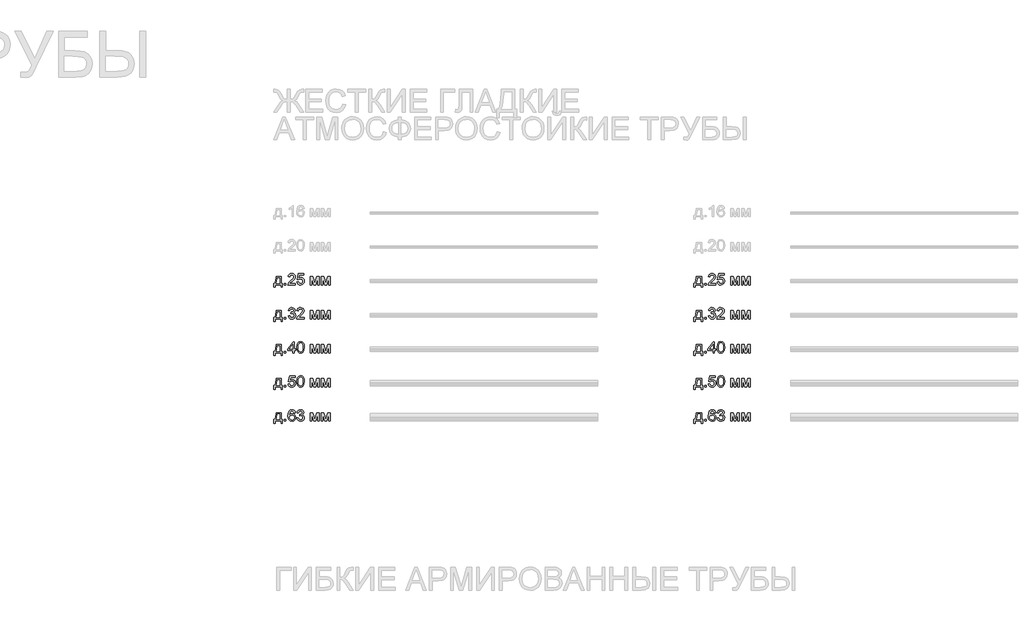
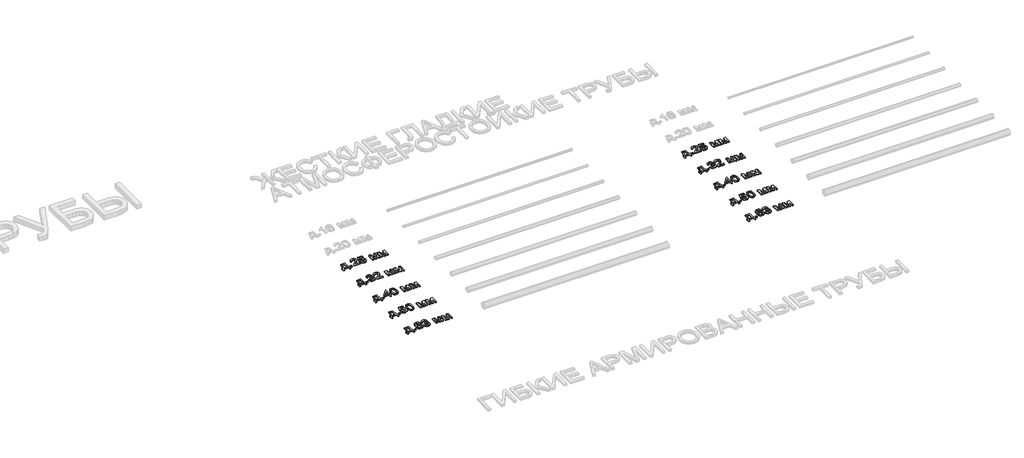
# One storey, part 84 of 98: 10 proxies.
"""IFC4 building model written with IfcOpenShell, lengths in millimetres."""

from ifc_helpers import new_model, si_unit, origin, origin_with_axes, place, context, project, spatial, polyline, outline, extrude, element, save

model = new_model("IFC4")

# Units and contexts
model_context = context("Model", 3, world=origin())
ifc_project = project(units=[si_unit("LENGTHUNIT", "METRE", prefix="MILLI")], contexts=[model_context])

# Site, building, storey
site = spatial("IfcSite", under=ifc_project)
building = spatial("IfcBuilding", under=site)
storey = spatial("IfcBuildingStorey", under=building, Name="Этаж 01", Elevation=0.0)

# Proxies
placement = place(None, origin())
element("IfcBuildingElementProxy", 1, Name="100", ObjectType="100", at=placement, inside=storey, context=model_context, shape_type="SweptSolid", body=[
    extrude(outline(polyline([(-29.8143916, -8196.7269726), (17.2745038, -8196.7269726), (17.2745038, -8257.9425366), (26.6922829, -8257.9425366), (26.6922829, -8290.9047634), (14.1352441, -8290.9047634), (14.1352441, -8270.4995754), (-37.6625408, -8270.4995754), (-37.6625408, -8290.9047634), (-50.2195796, -8290.9047634), (-50.2195796, -8257.9425366), (-42.3714303, -8257.9425366), (-32.6716084, -8233.9934187), (-29.8143916, -8196.7269726)]), holes=[polyline([(-18.8269827, -8209.2840114), (-21.7700386, -8237.8929679), (-28.2447617, -8257.9425366), (4.717465, -8257.9425366), (4.717465, -8209.2840114), (-18.8269827, -8209.2840114)])]), origin_with_axes(), (0.0, 0.0, 1.0), 10.0),
    extrude(outline(polyline([(43.9582112, -8270.4995754), (43.9582112, -8257.9425366), (56.51525, -8257.9425366), (56.51525, -8270.4995754), (43.9582112, -8270.4995754)])), origin_with_axes(), (0.0, 0.0, 1.0), 10.0),
    extrude(outline(polyline([(141.2752616, -8257.9425366), (141.2752616, -8270.4995754), (75.3508081, -8270.4995754), (76.6997088, -8261.8420858), (84.3271288, -8248.5124948), (100.0479527, -8233.9566305), (121.728465, -8213.0364077), (127.148593, -8198.8116373), (122.0350333, -8187.2969308), (108.6809169, -8182.600304), (94.7627147, -8187.1865662), (89.4774767, -8199.8662323), (76.920438, -8198.2966025), (79.9646615, -8186.1503653), (86.5466835, -8177.2782778), (96.3231475, -8171.8520184), (108.950697, -8170.0432652), (121.670217, -8172.0543535), (131.4282869, -8178.0876182), (137.6362956, -8187.1007271), (139.7056318, -8198.0513478), (137.4738144, -8209.9584617), (130.0548608, -8222.2702458), (112.0654312, -8239.4748605), (97.6199315, -8251.5536526), (91.9545488, -8257.9425366), (141.2752616, -8257.9425366)])), origin_with_axes(), (0.0, 0.0, 1.0), 10.0),
    extrude(outline(polyline([(153.8323004, -8243.815868), (166.3893392, -8242.2462382), (172.7169095, -8255.1834216), (185.838034, -8259.5121665), (194.8388801, -8258.006916), (201.5833834, -8253.4911645), (205.7956322, -8246.4860781), (207.1997152, -8237.5128231), (201.9390026, -8222.6013396), (195.3324552, -8218.4994554), (186.0342377, -8217.1321606), (175.0100406, -8219.3149271), (167.958969, -8224.9803098), (155.4019303, -8223.41068), (166.3893392, -8171.6128951), (215.0478644, -8171.6128951), (215.0478644, -8184.1699338), (176.5428822, -8184.1699338), (171.1718051, -8211.8346599), (180.1419944, -8206.3900064), (189.5413794, -8204.5751218), (201.2737494, -8206.8253334), (211.0134252, -8213.575968), (217.5709218, -8223.8644011), (219.7567539, -8236.7280082), (217.7885853, -8249.285047), (211.8840793, -8260.0272013), (200.5778393, -8269.0587042), (185.7889831, -8272.0692052), (173.4557392, -8270.1347591), (163.6302242, -8264.3314206), (156.894918, -8255.3336401), (153.8323004, -8243.815868)])), origin_with_axes(), (0.0, 0.0, 1.0), 10.0),
    extrude(outline(polyline([(273.1241687, -8196.7269726), (294.7311046, -8196.7269726), (311.3838962, -8255.7842956), (329.3365376, -8196.7269726), (350.0360312, -8196.7269726), (350.0360312, -8270.4995754), (337.4789924, -8270.4995754), (337.4789924, -8211.0988959), (319.4282492, -8270.4995754), (302.9471358, -8270.4995754), (285.6812075, -8208.2539418), (285.6812075, -8270.4995754), (273.1241687, -8270.4995754), (273.1241687, -8196.7269726)])), origin_with_axes(), (0.0, 0.0, 1.0), 10.0),
    extrude(outline(polyline([(368.8715893, -8196.7269726), (390.4785252, -8196.7269726), (407.1313168, -8255.7842956), (425.0839582, -8196.7269726), (445.7834518, -8196.7269726), (445.7834518, -8270.4995754), (433.226413, -8270.4995754), (433.226413, -8211.0988959), (415.1756698, -8270.4995754), (398.6945564, -8270.4995754), (381.4286281, -8208.2539418), (381.4286281, -8270.4995754), (368.8715893, -8270.4995754), (368.8715893, -8196.7269726)])), origin_with_axes(), (0.0, 0.0, 1.0), 10.0),
])
element("IfcBuildingElementProxy", 2, Name="100", ObjectType="100", at=placement, inside=storey, context=model_context, shape_type="SweptSolid", body=[
    extrude(outline(polyline([(-29.8143916, -8496.7269726), (17.2745038, -8496.7269726), (17.2745038, -8557.9425366), (26.6922829, -8557.9425366), (26.6922829, -8590.9047634), (14.1352441, -8590.9047634), (14.1352441, -8570.4995754), (-37.6625408, -8570.4995754), (-37.6625408, -8590.9047634), (-50.2195796, -8590.9047634), (-50.2195796, -8557.9425366), (-42.3714303, -8557.9425366), (-32.6716084, -8533.9934187), (-29.8143916, -8496.7269726)]), holes=[polyline([(-18.8269827, -8509.2840114), (-21.7700386, -8537.8929679), (-28.2447617, -8557.9425366), (4.717465, -8557.9425366), (4.717465, -8509.2840114), (-18.8269827, -8509.2840114)])]), origin_with_axes(), (0.0, 0.0, 1.0), 10.0),
    extrude(outline(polyline([(43.9582112, -8570.4995754), (43.9582112, -8557.9425366), (56.51525, -8557.9425366), (56.51525, -8570.4995754), (43.9582112, -8570.4995754)])), origin_with_axes(), (0.0, 0.0, 1.0), 10.0),
    extrude(outline(polyline([(76.920438, -8543.815868), (89.4774767, -8542.2462382), (96.405921, -8555.4654645), (109.3676299, -8559.5121665), (117.9760686, -8558.1203462), (124.62247, -8553.9448856), (130.2878527, -8540.1615735), (124.6715209, -8527.1753391), (110.3976995, -8522.0372539), (101.5930571, -8523.41068), (102.9910087, -8510.8536412), (105.0020969, -8511.000794), (119.2513929, -8507.3955505), (123.9970706, -8502.821551), (125.5789632, -8496.3100397), (120.992701, -8486.4875904), (109.1714262, -8482.600304), (97.2029986, -8486.5243786), (91.0471066, -8498.2966025), (78.4900678, -8496.7269726), (82.1872819, -8485.4513895), (88.7662382, -8477.0330231), (97.7670843, -8471.7907047), (108.7299678, -8470.0432652), (123.8744433, -8473.4890933), (134.4694447, -8482.9068723), (138.136002, -8495.5742757), (134.6533857, -8507.1502958), (124.3526899, -8515.4644289), (138.0379001, -8524.0483421), (142.8448915, -8540.3823027), (140.4413958, -8552.6205104), (133.2309087, -8562.8476299), (122.347733, -8569.7638114), (108.9261715, -8572.0692052), (96.7860657, -8570.1010366), (86.9023028, -8564.1965305), (80.0290408, -8555.1650275), (76.920438, -8543.815868)])), origin_with_axes(), (0.0, 0.0, 1.0), 10.0),
    extrude(outline(polyline([(218.1871241, -8557.9425366), (218.1871241, -8570.4995754), (152.2626706, -8570.4995754), (153.6115712, -8561.8420858), (161.2389912, -8548.5124948), (176.9598152, -8533.9566305), (198.6403274, -8513.0364077), (204.0604555, -8498.8116373), (198.9468958, -8487.2969308), (185.5927793, -8482.600304), (171.6745772, -8487.1865662), (166.3893392, -8499.8662323), (153.8323004, -8498.2966025), (156.8765239, -8486.1503653), (163.458546, -8477.2782778), (173.23501, -8471.8520184), (185.8625595, -8470.0432652), (198.5820794, -8472.0543535), (208.3401494, -8478.0876182), (214.548158, -8487.1007271), (216.6174943, -8498.0513478), (214.3856768, -8509.9584617), (206.9667232, -8522.2702458), (188.9772937, -8539.4748605), (174.531794, -8551.5536526), (168.8664113, -8557.9425366), (218.1871241, -8557.9425366)])), origin_with_axes(), (0.0, 0.0, 1.0), 10.0),
    extrude(outline(polyline([(273.1241687, -8496.7269726), (294.7311046, -8496.7269726), (311.3838962, -8555.7842956), (329.3365376, -8496.7269726), (350.0360312, -8496.7269726), (350.0360312, -8570.4995754), (337.4789924, -8570.4995754), (337.4789924, -8511.0988959), (319.4282492, -8570.4995754), (302.9471358, -8570.4995754), (285.6812075, -8508.2539418), (285.6812075, -8570.4995754), (273.1241687, -8570.4995754), (273.1241687, -8496.7269726)])), origin_with_axes(), (0.0, 0.0, 1.0), 10.0),
    extrude(outline(polyline([(368.8715893, -8496.7269726), (390.4785252, -8496.7269726), (407.1313168, -8555.7842956), (425.0839582, -8496.7269726), (445.7834518, -8496.7269726), (445.7834518, -8570.4995754), (433.226413, -8570.4995754), (433.226413, -8511.0988959), (415.1756698, -8570.4995754), (398.6945564, -8570.4995754), (381.4286281, -8508.2539418), (381.4286281, -8570.4995754), (368.8715893, -8570.4995754), (368.8715893, -8496.7269726)])), origin_with_axes(), (0.0, 0.0, 1.0), 10.0),
])
element("IfcBuildingElementProxy", 3, Name="100", ObjectType="100", at=placement, inside=storey, context=model_context, shape_type="SweptSolid", body=[
    extrude(outline(polyline([(-29.8143916, -8796.7269726), (17.2745038, -8796.7269726), (17.2745038, -8857.9425366), (26.6922829, -8857.9425366), (26.6922829, -8890.9047634), (14.1352441, -8890.9047634), (14.1352441, -8870.4995754), (-37.6625408, -8870.4995754), (-37.6625408, -8890.9047634), (-50.2195796, -8890.9047634), (-50.2195796, -8857.9425366), (-42.3714303, -8857.9425366), (-32.6716084, -8833.9934187), (-29.8143916, -8796.7269726)]), holes=[polyline([(-18.8269827, -8809.2840114), (-21.7700386, -8837.8929679), (-28.2447617, -8857.9425366), (4.717465, -8857.9425366), (4.717465, -8809.2840114), (-18.8269827, -8809.2840114)])]), origin_with_axes(), (0.0, 0.0, 1.0), 10.0),
    extrude(outline(polyline([(43.9582112, -8870.4995754), (43.9582112, -8857.9425366), (56.51525, -8857.9425366), (56.51525, -8870.4995754), (43.9582112, -8870.4995754)])), origin_with_axes(), (0.0, 0.0, 1.0), 10.0),
    extrude(outline(polyline([(117.730814, -8870.4995754), (117.730814, -8846.9551277), (72.2115484, -8846.9551277), (72.2115484, -8834.3980889), (120.8700736, -8771.6128951), (130.2878527, -8771.6128951), (130.2878527, -8834.3980889), (142.8448915, -8834.3980889), (142.8448915, -8846.9551277), (130.2878527, -8846.9551277), (130.2878527, -8870.4995754), (117.730814, -8870.4995754)]), holes=[polyline([(117.730814, -8834.3980889), (117.730814, -8795.5988012), (87.6625922, -8834.3980889), (117.730814, -8834.3980889)])]), origin_with_axes(), (0.0, 0.0, 1.0), 10.0),
    extrude(outline(polyline([(153.8323004, -8821.0807607), (157.5233831, -8792.1774986), (168.4862666, -8775.5124442), (186.7945272, -8770.0432652), (201.4607561, -8773.2806268), (211.5897737, -8782.6125667), (217.4758856, -8797.4749993), (219.7567539, -8821.0807607), (216.1024595, -8849.8613955), (205.1763642, -8866.563238), (196.9450046, -8870.6927134), (186.7945272, -8872.0692052), (173.7469791, -8869.6779723), (163.8386907, -8862.5042734), (156.333898, -8845.5142565), (153.8323004, -8821.0807607)]), holes=[polyline([(166.3893392, -8821.0562352), (167.8608672, -8840.8084327), (172.2754511, -8852.2403657), (178.8482761, -8857.6942163), (186.7945272, -8859.5121665), (194.7407783, -8857.6880849), (201.3136033, -8852.2158402), (205.7281872, -8840.7777759), (207.1997152, -8821.0562352), (205.7772381, -8801.7485618), (201.509807, -8790.227724), (194.9492447, -8784.507159), (186.6473744, -8782.600304), (178.7869624, -8784.2802984), (172.4716548, -8789.3202818), (167.9099181, -8801.5584895), (166.3893392, -8821.0562352)])]), origin_with_axes(), (0.0, 0.0, 1.0), 10.0),
    extrude(outline(polyline([(273.1241687, -8796.7269726), (294.7311046, -8796.7269726), (311.3838962, -8855.7842956), (329.3365376, -8796.7269726), (350.0360312, -8796.7269726), (350.0360312, -8870.4995754), (337.4789924, -8870.4995754), (337.4789924, -8811.0988959), (319.4282492, -8870.4995754), (302.9471358, -8870.4995754), (285.6812075, -8808.2539418), (285.6812075, -8870.4995754), (273.1241687, -8870.4995754), (273.1241687, -8796.7269726)])), origin_with_axes(), (0.0, 0.0, 1.0), 10.0),
    extrude(outline(polyline([(368.8715893, -8796.7269726), (390.4785252, -8796.7269726), (407.1313168, -8855.7842956), (425.0839582, -8796.7269726), (445.7834518, -8796.7269726), (445.7834518, -8870.4995754), (433.226413, -8870.4995754), (433.226413, -8811.0988959), (415.1756698, -8870.4995754), (398.6945564, -8870.4995754), (381.4286281, -8808.2539418), (381.4286281, -8870.4995754), (368.8715893, -8870.4995754), (368.8715893, -8796.7269726)])), origin_with_axes(), (0.0, 0.0, 1.0), 10.0),
])
element("IfcBuildingElementProxy", 4, Name="100", ObjectType="100", at=placement, inside=storey, context=model_context, shape_type="SweptSolid", body=[
    extrude(outline(polyline([(-29.8143916, -9096.7269726), (17.2745038, -9096.7269726), (17.2745038, -9157.9425366), (26.6922829, -9157.9425366), (26.6922829, -9190.9047634), (14.1352441, -9190.9047634), (14.1352441, -9170.4995754), (-37.6625408, -9170.4995754), (-37.6625408, -9190.9047634), (-50.2195796, -9190.9047634), (-50.2195796, -9157.9425366), (-42.3714303, -9157.9425366), (-32.6716084, -9133.9934187), (-29.8143916, -9096.7269726)]), holes=[polyline([(-18.8269827, -9109.2840114), (-21.7700386, -9137.8929679), (-28.2447617, -9157.9425366), (4.717465, -9157.9425366), (4.717465, -9109.2840114), (-18.8269827, -9109.2840114)])]), origin_with_axes(), (0.0, 0.0, 1.0), 10.0),
    extrude(outline(polyline([(43.9582112, -9170.4995754), (43.9582112, -9157.9425366), (56.51525, -9157.9425366), (56.51525, -9170.4995754), (43.9582112, -9170.4995754)])), origin_with_axes(), (0.0, 0.0, 1.0), 10.0),
    extrude(outline(polyline([(76.920438, -9143.815868), (89.4774767, -9142.2462382), (95.805047, -9155.1834216), (108.9261715, -9159.5121665), (117.9270177, -9158.006916), (124.6715209, -9153.4911645), (128.8837698, -9146.4860781), (130.2878527, -9137.5128231), (125.0271402, -9122.6013396), (118.4205927, -9118.4994554), (109.1223753, -9117.1321606), (98.0981781, -9119.3149271), (91.0471066, -9124.9803098), (78.4900678, -9123.41068), (89.4774767, -9071.6128951), (138.136002, -9071.6128951), (138.136002, -9084.1699338), (99.6310198, -9084.1699338), (94.2599427, -9111.8346599), (103.230132, -9106.3900064), (112.629517, -9104.5751218), (124.3618869, -9106.8253334), (134.1015627, -9113.575968), (140.6590593, -9123.8644011), (142.8448915, -9136.7280082), (140.8767228, -9149.285047), (134.9722168, -9160.0272013), (123.6659768, -9169.0587042), (108.8771206, -9172.0692052), (96.5438767, -9170.1347591), (86.7183618, -9164.3314206), (79.9830556, -9155.3336401), (76.920438, -9143.815868)])), origin_with_axes(), (0.0, 0.0, 1.0), 10.0),
    extrude(outline(polyline([(153.8323004, -9121.0807607), (157.5233831, -9092.1774986), (168.4862666, -9075.5124442), (186.7945272, -9070.0432652), (201.4607561, -9073.2806268), (211.5897737, -9082.6125667), (217.4758856, -9097.4749993), (219.7567539, -9121.0807607), (216.1024595, -9149.8613955), (205.1763642, -9166.563238), (196.9450046, -9170.6927134), (186.7945272, -9172.0692052), (173.7469791, -9169.6779723), (163.8386907, -9162.5042734), (156.333898, -9145.5142565), (153.8323004, -9121.0807607)]), holes=[polyline([(166.3893392, -9121.0562352), (167.8608672, -9140.8084327), (172.2754511, -9152.2403657), (178.8482761, -9157.6942163), (186.7945272, -9159.5121665), (194.7407783, -9157.6880849), (201.3136033, -9152.2158402), (205.7281872, -9140.7777759), (207.1997152, -9121.0562352), (205.7772381, -9101.7485618), (201.509807, -9090.227724), (194.9492447, -9084.507159), (186.6473744, -9082.600304), (178.7869624, -9084.2802984), (172.4716548, -9089.3202818), (167.9099181, -9101.5584895), (166.3893392, -9121.0562352)])]), origin_with_axes(), (0.0, 0.0, 1.0), 10.0),
    extrude(outline(polyline([(273.1241687, -9096.7269726), (294.7311046, -9096.7269726), (311.3838962, -9155.7842956), (329.3365376, -9096.7269726), (350.0360312, -9096.7269726), (350.0360312, -9170.4995754), (337.4789924, -9170.4995754), (337.4789924, -9111.0988959), (319.4282492, -9170.4995754), (302.9471358, -9170.4995754), (285.6812075, -9108.2539418), (285.6812075, -9170.4995754), (273.1241687, -9170.4995754), (273.1241687, -9096.7269726)])), origin_with_axes(), (0.0, 0.0, 1.0), 10.0),
    extrude(outline(polyline([(368.8715893, -9096.7269726), (390.4785252, -9096.7269726), (407.1313168, -9155.7842956), (425.0839582, -9096.7269726), (445.7834518, -9096.7269726), (445.7834518, -9170.4995754), (433.226413, -9170.4995754), (433.226413, -9111.0988959), (415.1756698, -9170.4995754), (398.6945564, -9170.4995754), (381.4286281, -9108.2539418), (381.4286281, -9170.4995754), (368.8715893, -9170.4995754), (368.8715893, -9096.7269726)])), origin_with_axes(), (0.0, 0.0, 1.0), 10.0),
])
element("IfcBuildingElementProxy", 5, Name="100", ObjectType="100", at=placement, inside=storey, context=model_context, shape_type="SweptSolid", body=[
    extrude(outline(polyline([(-29.8143916, -9396.7269726), (17.2745038, -9396.7269726), (17.2745038, -9457.9425366), (26.6922829, -9457.9425366), (26.6922829, -9490.9047634), (14.1352441, -9490.9047634), (14.1352441, -9470.4995754), (-37.6625408, -9470.4995754), (-37.6625408, -9490.9047634), (-50.2195796, -9490.9047634), (-50.2195796, -9457.9425366), (-42.3714303, -9457.9425366), (-32.6716084, -9433.9934187), (-29.8143916, -9396.7269726)]), holes=[polyline([(-18.8269827, -9409.2840114), (-21.7700386, -9437.8929679), (-28.2447617, -9457.9425366), (4.717465, -9457.9425366), (4.717465, -9409.2840114), (-18.8269827, -9409.2840114)])]), origin_with_axes(), (0.0, 0.0, 1.0), 10.0),
    extrude(outline(polyline([(43.9582112, -9470.4995754), (43.9582112, -9457.9425366), (56.51525, -9457.9425366), (56.51525, -9470.4995754), (43.9582112, -9470.4995754)])), origin_with_axes(), (0.0, 0.0, 1.0), 10.0),
    extrude(outline(polyline([(141.2752616, -9396.7269726), (128.7182229, -9398.2966025), (123.9602824, -9387.8242283), (111.3787182, -9382.600304), (100.0479527, -9385.6414618), (91.4763022, -9397.0580664), (87.9078469, -9419.4375545), (98.9810949, -9409.4189014), (112.7030934, -9406.1447517), (124.3036389, -9408.3827005), (134.0402491, -9415.0965469), (140.6437309, -9425.3543232), (142.8448915, -9438.2240617), (138.7000877, -9455.5513036), (127.2957458, -9467.8140368), (110.8391579, -9472.0692052), (96.5929276, -9469.2487766), (85.2468338, -9460.7874907), (77.8248145, -9445.8514817), (75.3508081, -9423.6068837), (78.0976603, -9398.5970394), (86.338217, -9381.496658), (97.5892747, -9372.9066134), (112.1635331, -9370.0432652), (123.1815988, -9371.8152302), (132.0046354, -9377.131125), (138.1850529, -9385.5740168), (141.2752616, -9396.7269726)]), holes=[polyline([(87.9078469, -9438.0278579), (90.8141146, -9448.9049023), (98.5396365, -9456.8021024), (109.8581393, -9459.5121665), (118.1446812, -9458.1080835), (124.6592582, -9453.8958347), (128.8807041, -9447.2739588), (130.2878527, -9438.6409946), (128.8990982, -9430.3544527), (124.7328346, -9424.0360794), (118.107893, -9420.0353627), (109.3431045, -9418.7017905), (94.1495781, -9424.0360794), (89.4682797, -9430.2011685), (87.9078469, -9438.0278579)])]), origin_with_axes(), (0.0, 0.0, 1.0), 10.0),
    extrude(outline(polyline([(153.8323004, -9443.815868), (166.3893392, -9442.2462382), (173.3177834, -9455.4654645), (186.2794924, -9459.5121665), (194.8879311, -9458.1203462), (201.5343325, -9453.9448856), (207.1997152, -9440.1615735), (201.5833834, -9427.1753391), (187.309562, -9422.0372539), (178.5049196, -9423.41068), (179.9028711, -9410.8536412), (181.9139594, -9411.000794), (196.1632553, -9407.3955505), (200.9089331, -9402.821551), (202.4908256, -9396.3100397), (197.9045634, -9386.4875904), (186.0832887, -9382.600304), (174.1148611, -9386.5243786), (167.958969, -9398.2966025), (155.4019303, -9396.7269726), (159.0991443, -9385.4513895), (165.6781007, -9377.0330231), (174.6789468, -9371.7907047), (185.6418303, -9370.0432652), (200.7863057, -9373.4890933), (211.3813072, -9382.9068723), (215.0478644, -9395.5742757), (211.5652482, -9407.1502958), (201.2645523, -9415.4644289), (214.9497625, -9424.0483421), (219.7567539, -9440.3823027), (217.3532582, -9452.6205104), (210.1427711, -9462.8476299), (199.2595955, -9469.7638114), (185.838034, -9472.0692052), (173.6979282, -9470.1010366), (163.8141652, -9464.1965305), (156.9409033, -9455.1650275), (153.8323004, -9443.815868)])), origin_with_axes(), (0.0, 0.0, 1.0), 10.0),
    extrude(outline(polyline([(273.1241687, -9396.7269726), (294.7311046, -9396.7269726), (311.3838962, -9455.7842956), (329.3365376, -9396.7269726), (350.0360312, -9396.7269726), (350.0360312, -9470.4995754), (337.4789924, -9470.4995754), (337.4789924, -9411.0988959), (319.4282492, -9470.4995754), (302.9471358, -9470.4995754), (285.6812075, -9408.2539418), (285.6812075, -9470.4995754), (273.1241687, -9470.4995754), (273.1241687, -9396.7269726)])), origin_with_axes(), (0.0, 0.0, 1.0), 10.0),
    extrude(outline(polyline([(368.8715893, -9396.7269726), (390.4785252, -9396.7269726), (407.1313168, -9455.7842956), (425.0839582, -9396.7269726), (445.7834518, -9396.7269726), (445.7834518, -9470.4995754), (433.226413, -9470.4995754), (433.226413, -9411.0988959), (415.1756698, -9470.4995754), (398.6945564, -9470.4995754), (381.4286281, -9408.2539418), (381.4286281, -9470.4995754), (368.8715893, -9470.4995754), (368.8715893, -9396.7269726)])), origin_with_axes(), (0.0, 0.0, 1.0), 10.0),
])
element("IfcBuildingElementProxy", 6, Name="100", ObjectType="100", at=placement, inside=storey, context=model_context, shape_type="SweptSolid", body=[
    extrude(outline(polyline([(3670.1856084, -8196.7269726), (3717.2745038, -8196.7269726), (3717.2745038, -8257.9425366), (3726.6922829, -8257.9425366), (3726.6922829, -8290.9047634), (3714.1352441, -8290.9047634), (3714.1352441, -8270.4995754), (3662.3374592, -8270.4995754), (3662.3374592, -8290.9047634), (3649.7804204, -8290.9047634), (3649.7804204, -8257.9425366), (3657.6285697, -8257.9425366), (3667.3283916, -8233.9934187), (3670.1856084, -8196.7269726)]), holes=[polyline([(3681.1730173, -8209.2840114), (3678.2299614, -8237.8929679), (3671.7552383, -8257.9425366), (3704.717465, -8257.9425366), (3704.717465, -8209.2840114), (3681.1730173, -8209.2840114)])]), origin_with_axes(), (0.0, 0.0, 1.0), 10.0),
    extrude(outline(polyline([(3743.9582112, -8270.4995754), (3743.9582112, -8257.9425366), (3756.51525, -8257.9425366), (3756.51525, -8270.4995754), (3743.9582112, -8270.4995754)])), origin_with_axes(), (0.0, 0.0, 1.0), 10.0),
    extrude(outline(polyline([(3841.2752616, -8257.9425366), (3841.2752616, -8270.4995754), (3775.3508081, -8270.4995754), (3776.6997088, -8261.8420858), (3784.3271288, -8248.5124948), (3800.0479527, -8233.9566305), (3821.728465, -8213.0364077), (3827.148593, -8198.8116373), (3822.0350333, -8187.2969308), (3808.6809169, -8182.600304), (3794.7627147, -8187.1865662), (3789.4774767, -8199.8662323), (3776.920438, -8198.2966025), (3779.9646615, -8186.1503653), (3786.5466835, -8177.2782778), (3796.3231475, -8171.8520184), (3808.950697, -8170.0432652), (3821.670217, -8172.0543535), (3831.4282869, -8178.0876182), (3837.6362956, -8187.1007271), (3839.7056318, -8198.0513478), (3837.4738144, -8209.9584617), (3830.0548608, -8222.2702458), (3812.0654312, -8239.4748605), (3797.6199315, -8251.5536526), (3791.9545488, -8257.9425366), (3841.2752616, -8257.9425366)])), origin_with_axes(), (0.0, 0.0, 1.0), 10.0),
    extrude(outline(polyline([(3853.8323004, -8243.815868), (3866.3893392, -8242.2462382), (3872.7169095, -8255.1834216), (3885.838034, -8259.5121665), (3894.8388801, -8258.006916), (3901.5833834, -8253.4911645), (3905.7956322, -8246.4860781), (3907.1997152, -8237.5128231), (3901.9390026, -8222.6013396), (3895.3324552, -8218.4994554), (3886.0342377, -8217.1321606), (3875.0100406, -8219.3149271), (3867.958969, -8224.9803098), (3855.4019303, -8223.41068), (3866.3893392, -8171.6128951), (3915.0478644, -8171.6128951), (3915.0478644, -8184.1699338), (3876.5428822, -8184.1699338), (3871.1718051, -8211.8346599), (3880.1419944, -8206.3900064), (3889.5413794, -8204.5751218), (3901.2737494, -8206.8253334), (3911.0134252, -8213.575968), (3917.5709218, -8223.8644011), (3919.7567539, -8236.7280082), (3917.7885853, -8249.285047), (3911.8840793, -8260.0272013), (3900.5778393, -8269.0587042), (3885.7889831, -8272.0692052), (3873.4557392, -8270.1347591), (3863.6302242, -8264.3314206), (3856.894918, -8255.3336401), (3853.8323004, -8243.815868)])), origin_with_axes(), (0.0, 0.0, 1.0), 10.0),
    extrude(outline(polyline([(3973.1241687, -8196.7269726), (3994.7311046, -8196.7269726), (4011.3838962, -8255.7842956), (4029.3365376, -8196.7269726), (4050.0360312, -8196.7269726), (4050.0360312, -8270.4995754), (4037.4789924, -8270.4995754), (4037.4789924, -8211.0988959), (4019.4282492, -8270.4995754), (4002.9471358, -8270.4995754), (3985.6812075, -8208.2539418), (3985.6812075, -8270.4995754), (3973.1241687, -8270.4995754), (3973.1241687, -8196.7269726)])), origin_with_axes(), (0.0, 0.0, 1.0), 10.0),
    extrude(outline(polyline([(4068.8715893, -8196.7269726), (4090.4785252, -8196.7269726), (4107.1313168, -8255.7842956), (4125.0839582, -8196.7269726), (4145.7834518, -8196.7269726), (4145.7834518, -8270.4995754), (4133.226413, -8270.4995754), (4133.226413, -8211.0988959), (4115.1756698, -8270.4995754), (4098.6945564, -8270.4995754), (4081.4286281, -8208.2539418), (4081.4286281, -8270.4995754), (4068.8715893, -8270.4995754), (4068.8715893, -8196.7269726)])), origin_with_axes(), (0.0, 0.0, 1.0), 10.0),
])
element("IfcBuildingElementProxy", 7, Name="100", ObjectType="100", at=placement, inside=storey, context=model_context, shape_type="SweptSolid", body=[
    extrude(outline(polyline([(3670.1856084, -8496.7269726), (3717.2745038, -8496.7269726), (3717.2745038, -8557.9425366), (3726.6922829, -8557.9425366), (3726.6922829, -8590.9047634), (3714.1352441, -8590.9047634), (3714.1352441, -8570.4995754), (3662.3374592, -8570.4995754), (3662.3374592, -8590.9047634), (3649.7804204, -8590.9047634), (3649.7804204, -8557.9425366), (3657.6285697, -8557.9425366), (3667.3283916, -8533.9934187), (3670.1856084, -8496.7269726)]), holes=[polyline([(3681.1730173, -8509.2840114), (3678.2299614, -8537.8929679), (3671.7552383, -8557.9425366), (3704.717465, -8557.9425366), (3704.717465, -8509.2840114), (3681.1730173, -8509.2840114)])]), origin_with_axes(), (0.0, 0.0, 1.0), 10.0),
    extrude(outline(polyline([(3743.9582112, -8570.4995754), (3743.9582112, -8557.9425366), (3756.51525, -8557.9425366), (3756.51525, -8570.4995754), (3743.9582112, -8570.4995754)])), origin_with_axes(), (0.0, 0.0, 1.0), 10.0),
    extrude(outline(polyline([(3776.920438, -8543.815868), (3789.4774767, -8542.2462382), (3796.405921, -8555.4654645), (3809.3676299, -8559.5121665), (3817.9760686, -8558.1203462), (3824.62247, -8553.9448856), (3830.2878527, -8540.1615735), (3824.6715209, -8527.1753391), (3810.3976995, -8522.0372539), (3801.5930571, -8523.41068), (3802.9910087, -8510.8536412), (3805.0020969, -8511.000794), (3819.2513929, -8507.3955505), (3823.9970706, -8502.821551), (3825.5789632, -8496.3100397), (3820.992701, -8486.4875904), (3809.1714262, -8482.600304), (3797.2029986, -8486.5243786), (3791.0471066, -8498.2966025), (3778.4900678, -8496.7269726), (3782.1872819, -8485.4513895), (3788.7662382, -8477.0330231), (3797.7670843, -8471.7907047), (3808.7299678, -8470.0432652), (3823.8744433, -8473.4890933), (3834.4694447, -8482.9068723), (3838.136002, -8495.5742757), (3834.6533857, -8507.1502958), (3824.3526899, -8515.4644289), (3838.0379001, -8524.0483421), (3842.8448915, -8540.3823027), (3840.4413958, -8552.6205104), (3833.2309087, -8562.8476299), (3822.347733, -8569.7638114), (3808.9261715, -8572.0692052), (3796.7860657, -8570.1010366), (3786.9023028, -8564.1965305), (3780.0290408, -8555.1650275), (3776.920438, -8543.815868)])), origin_with_axes(), (0.0, 0.0, 1.0), 10.0),
    extrude(outline(polyline([(3918.1871241, -8557.9425366), (3918.1871241, -8570.4995754), (3852.2626706, -8570.4995754), (3853.6115712, -8561.8420858), (3861.2389912, -8548.5124948), (3876.9598152, -8533.9566305), (3898.6403274, -8513.0364077), (3904.0604555, -8498.8116373), (3898.9468958, -8487.2969308), (3885.5927793, -8482.600304), (3871.6745772, -8487.1865662), (3866.3893392, -8499.8662323), (3853.8323004, -8498.2966025), (3856.8765239, -8486.1503653), (3863.458546, -8477.2782778), (3873.23501, -8471.8520184), (3885.8625595, -8470.0432652), (3898.5820794, -8472.0543535), (3908.3401494, -8478.0876182), (3914.548158, -8487.1007271), (3916.6174943, -8498.0513478), (3914.3856768, -8509.9584617), (3906.9667232, -8522.2702458), (3888.9772937, -8539.4748605), (3874.531794, -8551.5536526), (3868.8664113, -8557.9425366), (3918.1871241, -8557.9425366)])), origin_with_axes(), (0.0, 0.0, 1.0), 10.0),
    extrude(outline(polyline([(3973.1241687, -8496.7269726), (3994.7311046, -8496.7269726), (4011.3838962, -8555.7842956), (4029.3365376, -8496.7269726), (4050.0360312, -8496.7269726), (4050.0360312, -8570.4995754), (4037.4789924, -8570.4995754), (4037.4789924, -8511.0988959), (4019.4282492, -8570.4995754), (4002.9471358, -8570.4995754), (3985.6812075, -8508.2539418), (3985.6812075, -8570.4995754), (3973.1241687, -8570.4995754), (3973.1241687, -8496.7269726)])), origin_with_axes(), (0.0, 0.0, 1.0), 10.0),
    extrude(outline(polyline([(4068.8715893, -8496.7269726), (4090.4785252, -8496.7269726), (4107.1313168, -8555.7842956), (4125.0839582, -8496.7269726), (4145.7834518, -8496.7269726), (4145.7834518, -8570.4995754), (4133.226413, -8570.4995754), (4133.226413, -8511.0988959), (4115.1756698, -8570.4995754), (4098.6945564, -8570.4995754), (4081.4286281, -8508.2539418), (4081.4286281, -8570.4995754), (4068.8715893, -8570.4995754), (4068.8715893, -8496.7269726)])), origin_with_axes(), (0.0, 0.0, 1.0), 10.0),
])
element("IfcBuildingElementProxy", 8, Name="100", ObjectType="100", at=placement, inside=storey, context=model_context, shape_type="SweptSolid", body=[
    extrude(outline(polyline([(3670.1856084, -8796.7269726), (3717.2745038, -8796.7269726), (3717.2745038, -8857.9425366), (3726.6922829, -8857.9425366), (3726.6922829, -8890.9047634), (3714.1352441, -8890.9047634), (3714.1352441, -8870.4995754), (3662.3374592, -8870.4995754), (3662.3374592, -8890.9047634), (3649.7804204, -8890.9047634), (3649.7804204, -8857.9425366), (3657.6285697, -8857.9425366), (3667.3283916, -8833.9934187), (3670.1856084, -8796.7269726)]), holes=[polyline([(3681.1730173, -8809.2840114), (3678.2299614, -8837.8929679), (3671.7552383, -8857.9425366), (3704.717465, -8857.9425366), (3704.717465, -8809.2840114), (3681.1730173, -8809.2840114)])]), origin_with_axes(), (0.0, 0.0, 1.0), 10.0),
    extrude(outline(polyline([(3743.9582112, -8870.4995754), (3743.9582112, -8857.9425366), (3756.51525, -8857.9425366), (3756.51525, -8870.4995754), (3743.9582112, -8870.4995754)])), origin_with_axes(), (0.0, 0.0, 1.0), 10.0),
    extrude(outline(polyline([(3817.730814, -8870.4995754), (3817.730814, -8846.9551277), (3772.2115484, -8846.9551277), (3772.2115484, -8834.3980889), (3820.8700736, -8771.6128951), (3830.2878527, -8771.6128951), (3830.2878527, -8834.3980889), (3842.8448915, -8834.3980889), (3842.8448915, -8846.9551277), (3830.2878527, -8846.9551277), (3830.2878527, -8870.4995754), (3817.730814, -8870.4995754)]), holes=[polyline([(3817.730814, -8834.3980889), (3817.730814, -8795.5988012), (3787.6625922, -8834.3980889), (3817.730814, -8834.3980889)])]), origin_with_axes(), (0.0, 0.0, 1.0), 10.0),
    extrude(outline(polyline([(3853.8323004, -8821.0807607), (3857.5233831, -8792.1774986), (3868.4862666, -8775.5124442), (3886.7945272, -8770.0432652), (3901.4607561, -8773.2806268), (3911.5897737, -8782.6125667), (3917.4758856, -8797.4749993), (3919.7567539, -8821.0807607), (3916.1024595, -8849.8613955), (3905.1763642, -8866.563238), (3896.9450046, -8870.6927134), (3886.7945272, -8872.0692052), (3873.7469791, -8869.6779723), (3863.8386907, -8862.5042734), (3856.333898, -8845.5142565), (3853.8323004, -8821.0807607)]), holes=[polyline([(3866.3893392, -8821.0562352), (3867.8608672, -8840.8084327), (3872.2754511, -8852.2403657), (3878.8482761, -8857.6942163), (3886.7945272, -8859.5121665), (3894.7407783, -8857.6880849), (3901.3136033, -8852.2158402), (3905.7281872, -8840.7777759), (3907.1997152, -8821.0562352), (3905.7772381, -8801.7485618), (3901.509807, -8790.227724), (3894.9492447, -8784.507159), (3886.6473744, -8782.600304), (3878.7869624, -8784.2802984), (3872.4716548, -8789.3202818), (3867.9099181, -8801.5584895), (3866.3893392, -8821.0562352)])]), origin_with_axes(), (0.0, 0.0, 1.0), 10.0),
    extrude(outline(polyline([(3973.1241687, -8796.7269726), (3994.7311046, -8796.7269726), (4011.3838962, -8855.7842956), (4029.3365376, -8796.7269726), (4050.0360312, -8796.7269726), (4050.0360312, -8870.4995754), (4037.4789924, -8870.4995754), (4037.4789924, -8811.0988959), (4019.4282492, -8870.4995754), (4002.9471358, -8870.4995754), (3985.6812075, -8808.2539418), (3985.6812075, -8870.4995754), (3973.1241687, -8870.4995754), (3973.1241687, -8796.7269726)])), origin_with_axes(), (0.0, 0.0, 1.0), 10.0),
    extrude(outline(polyline([(4068.8715893, -8796.7269726), (4090.4785252, -8796.7269726), (4107.1313168, -8855.7842956), (4125.0839582, -8796.7269726), (4145.7834518, -8796.7269726), (4145.7834518, -8870.4995754), (4133.226413, -8870.4995754), (4133.226413, -8811.0988959), (4115.1756698, -8870.4995754), (4098.6945564, -8870.4995754), (4081.4286281, -8808.2539418), (4081.4286281, -8870.4995754), (4068.8715893, -8870.4995754), (4068.8715893, -8796.7269726)])), origin_with_axes(), (0.0, 0.0, 1.0), 10.0),
])
element("IfcBuildingElementProxy", 9, Name="100", ObjectType="100", at=placement, inside=storey, context=model_context, shape_type="SweptSolid", body=[
    extrude(outline(polyline([(3670.1856084, -9096.7269726), (3717.2745038, -9096.7269726), (3717.2745038, -9157.9425366), (3726.6922829, -9157.9425366), (3726.6922829, -9190.9047634), (3714.1352441, -9190.9047634), (3714.1352441, -9170.4995754), (3662.3374592, -9170.4995754), (3662.3374592, -9190.9047634), (3649.7804204, -9190.9047634), (3649.7804204, -9157.9425366), (3657.6285697, -9157.9425366), (3667.3283916, -9133.9934187), (3670.1856084, -9096.7269726)]), holes=[polyline([(3681.1730173, -9109.2840114), (3678.2299614, -9137.8929679), (3671.7552383, -9157.9425366), (3704.717465, -9157.9425366), (3704.717465, -9109.2840114), (3681.1730173, -9109.2840114)])]), origin_with_axes(), (0.0, 0.0, 1.0), 10.0),
    extrude(outline(polyline([(3743.9582112, -9170.4995754), (3743.9582112, -9157.9425366), (3756.51525, -9157.9425366), (3756.51525, -9170.4995754), (3743.9582112, -9170.4995754)])), origin_with_axes(), (0.0, 0.0, 1.0), 10.0),
    extrude(outline(polyline([(3776.920438, -9143.815868), (3789.4774767, -9142.2462382), (3795.805047, -9155.1834216), (3808.9261715, -9159.5121665), (3817.9270177, -9158.006916), (3824.6715209, -9153.4911645), (3828.8837698, -9146.4860781), (3830.2878527, -9137.5128231), (3825.0271402, -9122.6013396), (3818.4205927, -9118.4994554), (3809.1223753, -9117.1321606), (3798.0981781, -9119.3149271), (3791.0471066, -9124.9803098), (3778.4900678, -9123.41068), (3789.4774767, -9071.6128951), (3838.136002, -9071.6128951), (3838.136002, -9084.1699338), (3799.6310198, -9084.1699338), (3794.2599427, -9111.8346599), (3803.230132, -9106.3900064), (3812.629517, -9104.5751218), (3824.3618869, -9106.8253334), (3834.1015627, -9113.575968), (3840.6590593, -9123.8644011), (3842.8448915, -9136.7280082), (3840.8767228, -9149.285047), (3834.9722168, -9160.0272013), (3823.6659768, -9169.0587042), (3808.8771206, -9172.0692052), (3796.5438767, -9170.1347591), (3786.7183618, -9164.3314206), (3779.9830556, -9155.3336401), (3776.920438, -9143.815868)])), origin_with_axes(), (0.0, 0.0, 1.0), 10.0),
    extrude(outline(polyline([(3853.8323004, -9121.0807607), (3857.5233831, -9092.1774986), (3868.4862666, -9075.5124442), (3886.7945272, -9070.0432652), (3901.4607561, -9073.2806268), (3911.5897737, -9082.6125667), (3917.4758856, -9097.4749993), (3919.7567539, -9121.0807607), (3916.1024595, -9149.8613955), (3905.1763642, -9166.563238), (3896.9450046, -9170.6927134), (3886.7945272, -9172.0692052), (3873.7469791, -9169.6779723), (3863.8386907, -9162.5042734), (3856.333898, -9145.5142565), (3853.8323004, -9121.0807607)]), holes=[polyline([(3866.3893392, -9121.0562352), (3867.8608672, -9140.8084327), (3872.2754511, -9152.2403657), (3878.8482761, -9157.6942163), (3886.7945272, -9159.5121665), (3894.7407783, -9157.6880849), (3901.3136033, -9152.2158402), (3905.7281872, -9140.7777759), (3907.1997152, -9121.0562352), (3905.7772381, -9101.7485618), (3901.509807, -9090.227724), (3894.9492447, -9084.507159), (3886.6473744, -9082.600304), (3878.7869624, -9084.2802984), (3872.4716548, -9089.3202818), (3867.9099181, -9101.5584895), (3866.3893392, -9121.0562352)])]), origin_with_axes(), (0.0, 0.0, 1.0), 10.0),
    extrude(outline(polyline([(3973.1241687, -9096.7269726), (3994.7311046, -9096.7269726), (4011.3838962, -9155.7842956), (4029.3365376, -9096.7269726), (4050.0360312, -9096.7269726), (4050.0360312, -9170.4995754), (4037.4789924, -9170.4995754), (4037.4789924, -9111.0988959), (4019.4282492, -9170.4995754), (4002.9471358, -9170.4995754), (3985.6812075, -9108.2539418), (3985.6812075, -9170.4995754), (3973.1241687, -9170.4995754), (3973.1241687, -9096.7269726)])), origin_with_axes(), (0.0, 0.0, 1.0), 10.0),
    extrude(outline(polyline([(4068.8715893, -9096.7269726), (4090.4785252, -9096.7269726), (4107.1313168, -9155.7842956), (4125.0839582, -9096.7269726), (4145.7834518, -9096.7269726), (4145.7834518, -9170.4995754), (4133.226413, -9170.4995754), (4133.226413, -9111.0988959), (4115.1756698, -9170.4995754), (4098.6945564, -9170.4995754), (4081.4286281, -9108.2539418), (4081.4286281, -9170.4995754), (4068.8715893, -9170.4995754), (4068.8715893, -9096.7269726)])), origin_with_axes(), (0.0, 0.0, 1.0), 10.0),
])
element("IfcBuildingElementProxy", 10, Name="100", ObjectType="100", at=placement, inside=storey, context=model_context, shape_type="SweptSolid", body=[
    extrude(outline(polyline([(3670.1856084, -9396.7269726), (3717.2745038, -9396.7269726), (3717.2745038, -9457.9425366), (3726.6922829, -9457.9425366), (3726.6922829, -9490.9047634), (3714.1352441, -9490.9047634), (3714.1352441, -9470.4995754), (3662.3374592, -9470.4995754), (3662.3374592, -9490.9047634), (3649.7804204, -9490.9047634), (3649.7804204, -9457.9425366), (3657.6285697, -9457.9425366), (3667.3283916, -9433.9934187), (3670.1856084, -9396.7269726)]), holes=[polyline([(3681.1730173, -9409.2840114), (3678.2299614, -9437.8929679), (3671.7552383, -9457.9425366), (3704.717465, -9457.9425366), (3704.717465, -9409.2840114), (3681.1730173, -9409.2840114)])]), origin_with_axes(), (0.0, 0.0, 1.0), 10.0),
    extrude(outline(polyline([(3743.9582112, -9470.4995754), (3743.9582112, -9457.9425366), (3756.51525, -9457.9425366), (3756.51525, -9470.4995754), (3743.9582112, -9470.4995754)])), origin_with_axes(), (0.0, 0.0, 1.0), 10.0),
    extrude(outline(polyline([(3841.2752616, -9396.7269726), (3828.7182229, -9398.2966025), (3823.9602824, -9387.8242283), (3811.3787182, -9382.600304), (3800.0479527, -9385.6414618), (3791.4763022, -9397.0580664), (3787.9078469, -9419.4375545), (3798.9810949, -9409.4189014), (3812.7030934, -9406.1447517), (3824.3036389, -9408.3827005), (3834.0402491, -9415.0965469), (3840.6437309, -9425.3543232), (3842.8448915, -9438.2240617), (3838.7000877, -9455.5513036), (3827.2957458, -9467.8140368), (3810.8391579, -9472.0692052), (3796.5929276, -9469.2487766), (3785.2468338, -9460.7874907), (3777.8248145, -9445.8514817), (3775.3508081, -9423.6068837), (3778.0976603, -9398.5970394), (3786.338217, -9381.496658), (3797.5892747, -9372.9066134), (3812.1635331, -9370.0432652), (3823.1815988, -9371.8152302), (3832.0046354, -9377.131125), (3838.1850529, -9385.5740168), (3841.2752616, -9396.7269726)]), holes=[polyline([(3787.9078469, -9438.0278579), (3790.8141146, -9448.9049023), (3798.5396365, -9456.8021024), (3809.8581393, -9459.5121665), (3818.1446812, -9458.1080835), (3824.6592582, -9453.8958347), (3828.8807041, -9447.2739588), (3830.2878527, -9438.6409946), (3828.8990982, -9430.3544527), (3824.7328346, -9424.0360794), (3818.107893, -9420.0353627), (3809.3431045, -9418.7017905), (3794.1495781, -9424.0360794), (3789.4682797, -9430.2011685), (3787.9078469, -9438.0278579)])]), origin_with_axes(), (0.0, 0.0, 1.0), 10.0),
    extrude(outline(polyline([(3853.8323004, -9443.815868), (3866.3893392, -9442.2462382), (3873.3177834, -9455.4654645), (3886.2794924, -9459.5121665), (3894.8879311, -9458.1203462), (3901.5343325, -9453.9448856), (3907.1997152, -9440.1615735), (3901.5833834, -9427.1753391), (3887.309562, -9422.0372539), (3878.5049196, -9423.41068), (3879.9028711, -9410.8536412), (3881.9139594, -9411.000794), (3896.1632553, -9407.3955505), (3900.9089331, -9402.821551), (3902.4908256, -9396.3100397), (3897.9045634, -9386.4875904), (3886.0832887, -9382.600304), (3874.1148611, -9386.5243786), (3867.958969, -9398.2966025), (3855.4019303, -9396.7269726), (3859.0991443, -9385.4513895), (3865.6781007, -9377.0330231), (3874.6789468, -9371.7907047), (3885.6418303, -9370.0432652), (3900.7863057, -9373.4890933), (3911.3813072, -9382.9068723), (3915.0478644, -9395.5742757), (3911.5652482, -9407.1502958), (3901.2645523, -9415.4644289), (3914.9497625, -9424.0483421), (3919.7567539, -9440.3823027), (3917.3532582, -9452.6205104), (3910.1427711, -9462.8476299), (3899.2595955, -9469.7638114), (3885.838034, -9472.0692052), (3873.6979282, -9470.1010366), (3863.8141652, -9464.1965305), (3856.9409033, -9455.1650275), (3853.8323004, -9443.815868)])), origin_with_axes(), (0.0, 0.0, 1.0), 10.0),
    extrude(outline(polyline([(3973.1241687, -9396.7269726), (3994.7311046, -9396.7269726), (4011.3838962, -9455.7842956), (4029.3365376, -9396.7269726), (4050.0360312, -9396.7269726), (4050.0360312, -9470.4995754), (4037.4789924, -9470.4995754), (4037.4789924, -9411.0988959), (4019.4282492, -9470.4995754), (4002.9471358, -9470.4995754), (3985.6812075, -9408.2539418), (3985.6812075, -9470.4995754), (3973.1241687, -9470.4995754), (3973.1241687, -9396.7269726)])), origin_with_axes(), (0.0, 0.0, 1.0), 10.0),
    extrude(outline(polyline([(4068.8715893, -9396.7269726), (4090.4785252, -9396.7269726), (4107.1313168, -9455.7842956), (4125.0839582, -9396.7269726), (4145.7834518, -9396.7269726), (4145.7834518, -9470.4995754), (4133.226413, -9470.4995754), (4133.226413, -9411.0988959), (4115.1756698, -9470.4995754), (4098.6945564, -9470.4995754), (4081.4286281, -9408.2539418), (4081.4286281, -9470.4995754), (4068.8715893, -9470.4995754), (4068.8715893, -9396.7269726)])), origin_with_axes(), (0.0, 0.0, 1.0), 10.0),
])

save(model, "model.ifc")
